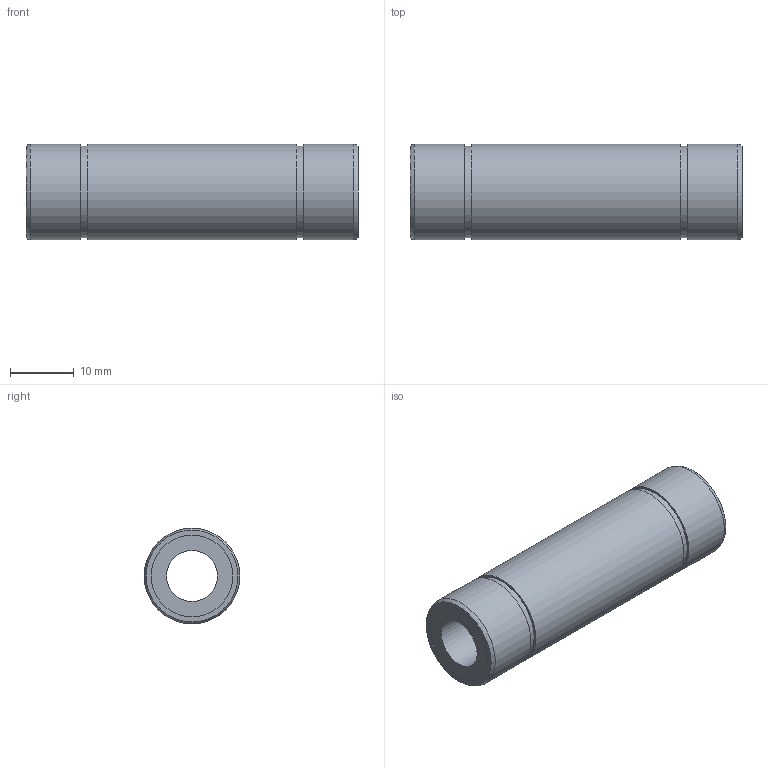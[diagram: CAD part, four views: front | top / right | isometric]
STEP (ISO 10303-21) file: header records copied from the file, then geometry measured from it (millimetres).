
FILE_DESCRIPTION((''),'2;1');
FILE_NAME('D:\製品 (図面)\カタログ用3D\メンテナンスフリー関連\STEP形式\LD-MF\LD8MF.stp','2010-06-01T15:34:56',('Tsuchiya'),(''),'Autodesk Inventor 10','Autodesk Inventor 10','');
FILE_SCHEMA(('AUTOMOTIVE_DESIGN { 1 0 10303 214 1 1 1 1 }'));
Length unit declared in the file: millimetre
Products named in the file (1): LD8MF
Bounding box: 52 x 15 x 15 mm (x, y, z)
Volume: 6516.2 mm3; surface area: 4050.4 mm2
Topology: 1 solids, 1 shells, 18 faces, 28 edges, 18 vertices
Faces by surface type: plane 8, cylinder 8, torus 2
Full cylindrical faces by diameter (mm): 8 x1, 12.8 x2, 14.3 x2, 15 x3
Entity records: 391 total; most frequent: DIRECTION 74, CARTESIAN_POINT 55, AXIS2_PLACEMENT_3D 37, ORIENTED_EDGE 36, EDGE_LOOP 36, VERTEX_POINT 18, CIRCLE 18, EDGE_CURVE 18
